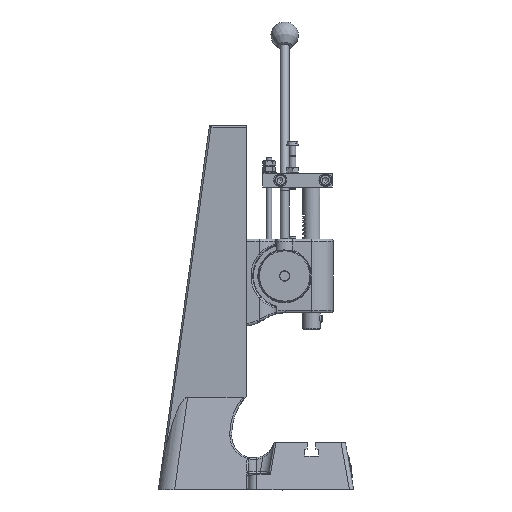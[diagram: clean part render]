
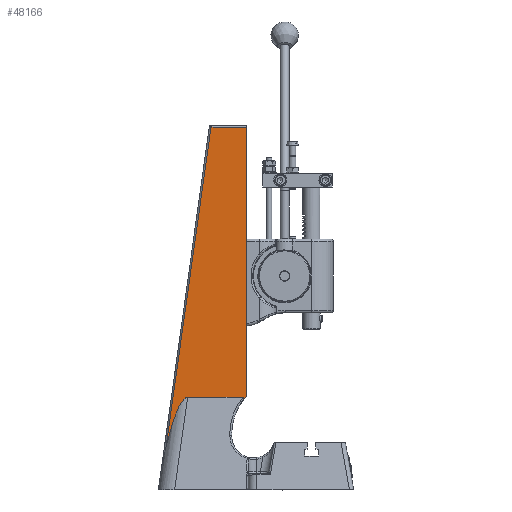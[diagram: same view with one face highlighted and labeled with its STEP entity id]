
A CAD part, left-side view. The second image highlights one B-rep face of the part: STEP entity #48166.
In plain terms, the highlighted planar face has unit normal (-0.999, 0.048, 0).
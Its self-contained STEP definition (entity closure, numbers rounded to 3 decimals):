
#228=PLANE('',#50967);
#1700=LINE('',#63185,#6091);
#1754=LINE('',#63599,#6145);
#1769=LINE('',#64210,#6160);
#1799=LINE('',#65087,#6190);
#6091=VECTOR('',#53076,310.085);
#6145=VECTOR('',#53240,64.011);
#6160=VECTOR('',#53393,40.956);
#6190=VECTOR('',#53637,371.747);
#10440=ELLIPSE('',#50779,112.868,20.);
#10469=ELLIPSE('',#50963,65.075,65.);
#11260=FACE_OUTER_BOUND('',#13933,.T.);
#13933=EDGE_LOOP('',(#31462,#31463,#31464,#31465,#31466,#31467,#31468));
#17269=B_SPLINE_CURVE_WITH_KNOTS('',3,(#64793,#64794,#64795,#64796,#64797,
#64798,#64799,#64800,#64801,#64802,#64803,#64804,#64805,#64806,#64807,#64808,
#64809,#64810),.UNSPECIFIED.,.F.,.F.,(4,2,2,2,2,2,2,2,4),(0.,0.016,
0.027,0.039,0.055,0.088,
0.175,0.423,0.612),.UNSPECIFIED.);
#19234=VERTEX_POINT('',#63181);
#19236=VERTEX_POINT('',#63184);
#19306=VERTEX_POINT('',#63563);
#19307=VERTEX_POINT('',#63565);
#19313=VERTEX_POINT('',#63597);
#19354=VERTEX_POINT('',#64208);
#19382=VERTEX_POINT('',#64791);
#23869=EDGE_CURVE('',#19236,#19234,#1700,.T.);
#23967=EDGE_CURVE('',#19306,#19307,#10440,.F.);
#23975=EDGE_CURVE('',#19313,#19306,#1754,.T.);
#24055=EDGE_CURVE('',#19354,#19234,#1769,.T.);
#24135=EDGE_CURVE('',#19382,#19313,#17269,.F.);
#24155=EDGE_CURVE('',#19307,#19354,#1799,.T.);
#24156=EDGE_CURVE('',#19382,#19236,#10469,.T.);
#31462=ORIENTED_EDGE('',*,*,#23869,.T.);
#31463=ORIENTED_EDGE('',*,*,#24055,.F.);
#31464=ORIENTED_EDGE('',*,*,#24155,.F.);
#31465=ORIENTED_EDGE('',*,*,#23967,.F.);
#31466=ORIENTED_EDGE('',*,*,#23975,.F.);
#31467=ORIENTED_EDGE('',*,*,#24135,.F.);
#31468=ORIENTED_EDGE('',*,*,#24156,.T.);
#48166=ADVANCED_FACE('',(#11260),#228,.T.);
#50779=AXIS2_PLACEMENT_3D('',#63566,#53230,#53231);
#50963=AXIS2_PLACEMENT_3D('',#65091,#53644,#53645);
#50967=AXIS2_PLACEMENT_3D('',#65096,#53653,#53654);
#53076=DIRECTION('',(0.,0.,1.));
#53230=DIRECTION('center_axis',(0.999,-0.048,0.));
#53231=DIRECTION('ref_axis',(-0.006,-0.131,0.991));
#53240=DIRECTION('',(0.048,0.999,0.));
#53393=DIRECTION('',(-0.048,-0.999,0.));
#53637=DIRECTION('',(-0.007,-0.139,0.99));
#53644=DIRECTION('center_axis',(0.999,-0.048,0.));
#53645=DIRECTION('ref_axis',(-0.048,-0.999,0.));
#53653=DIRECTION('center_axis',(-0.999,0.048,0.));
#53654=DIRECTION('ref_axis',(-0.048,-0.999,0.));
#63181=CARTESIAN_POINT('',(-39.904,124.,421.));
#63184=CARTESIAN_POINT('',(-39.904,124.,110.915));
#63185=CARTESIAN_POINT('',(-39.904,124.,266.5));
#63563=CARTESIAN_POINT('',(-36.645,191.791,110.));
#63565=CARTESIAN_POINT('',(-35.45,216.645,52.879));
#63566=CARTESIAN_POINT('Origin',(-35.958,206.074,-1.928));
#63597=CARTESIAN_POINT('',(-39.719,127.854,110.));
#63599=CARTESIAN_POINT('',(-35.,226.,110.));
#64208=CARTESIAN_POINT('',(-37.937,164.909,421.));
#64210=CARTESIAN_POINT('',(-36.242,200.175,421.));
#64791=CARTESIAN_POINT('',(-39.445,133.541,97.403));
#64793=CARTESIAN_POINT('Ctrl Pts',(-39.719,127.854,110.));
#64794=CARTESIAN_POINT('Ctrl Pts',(-39.721,127.801,110.));
#64795=CARTESIAN_POINT('Ctrl Pts',(-39.724,127.747,109.993));
#64796=CARTESIAN_POINT('Ctrl Pts',(-39.728,127.662,109.959));
#64797=CARTESIAN_POINT('Ctrl Pts',(-39.729,127.63,109.939));
#64798=CARTESIAN_POINT('Ctrl Pts',(-39.732,127.575,109.886));
#64799=CARTESIAN_POINT('Ctrl Pts',(-39.733,127.554,109.854));
#64800=CARTESIAN_POINT('Ctrl Pts',(-39.735,127.515,109.771));
#64801=CARTESIAN_POINT('Ctrl Pts',(-39.735,127.502,109.717));
#64802=CARTESIAN_POINT('Ctrl Pts',(-39.736,127.482,109.555));
#64803=CARTESIAN_POINT('Ctrl Pts',(-39.736,127.493,109.434));
#64804=CARTESIAN_POINT('Ctrl Pts',(-39.733,127.554,109.042));
#64805=CARTESIAN_POINT('Ctrl Pts',(-39.727,127.669,108.689));
#64806=CARTESIAN_POINT('Ctrl Pts',(-39.699,128.266,107.192));
#64807=CARTESIAN_POINT('Ctrl Pts',(-39.658,129.116,105.596));
#64808=CARTESIAN_POINT('Ctrl Pts',(-39.564,131.078,101.982));
#64809=CARTESIAN_POINT('Ctrl Pts',(-39.512,132.153,100.022));
#64810=CARTESIAN_POINT('Ctrl Pts',(-39.445,133.541,97.403));
#65087=CARTESIAN_POINT('',(-35.456,216.525,53.733));
#65091=CARTESIAN_POINT('Origin',(-42.207,76.104,66.972));
#65096=CARTESIAN_POINT('Origin',(-35.,226.,110.));
